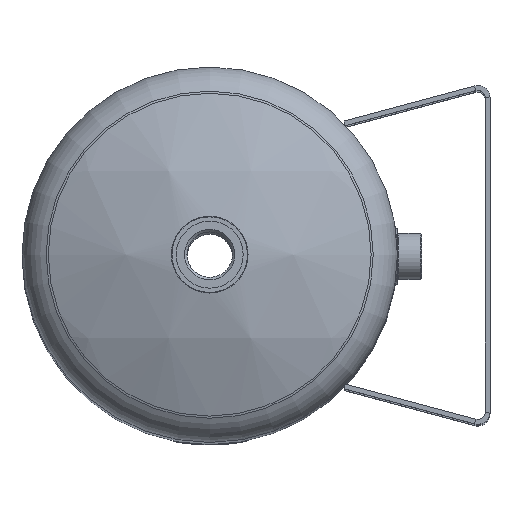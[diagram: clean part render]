
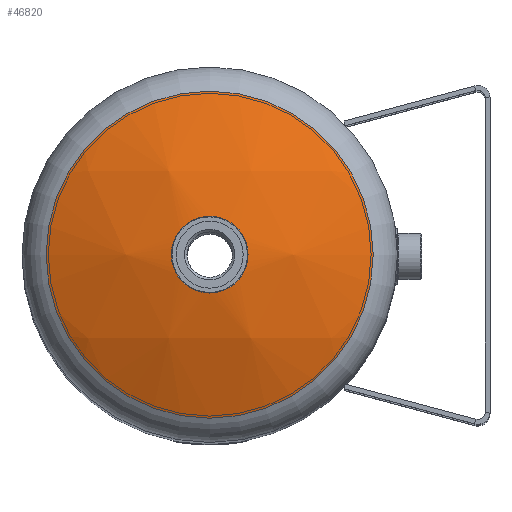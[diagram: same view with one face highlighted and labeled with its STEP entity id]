
A CAD part, top view. The second image highlights one B-rep face of the part: STEP entity #46820.
In plain terms, the highlighted spherical face has radius 156 mm.
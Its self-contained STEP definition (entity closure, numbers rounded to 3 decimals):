
#1633=SPHERICAL_SURFACE('',#49740,156.);
#1865=FACE_BOUND('',#6669,.T.);
#3035=CIRCLE('',#49730,15.75);
#3040=CIRCLE('',#49738,67.082);
#3914=FACE_OUTER_BOUND('',#6668,.T.);
#6668=EDGE_LOOP('',(#31824));
#6669=EDGE_LOOP('',(#31825));
#19518=VERTEX_POINT('',#59451);
#19523=VERTEX_POINT('',#59466);
#24429=EDGE_CURVE('',#19518,#19518,#3035,.T.);
#24435=EDGE_CURVE('',#19523,#19523,#3040,.T.);
#31824=ORIENTED_EDGE('',*,*,#24435,.T.);
#31825=ORIENTED_EDGE('',*,*,#24429,.T.);
#46820=ADVANCED_FACE('',(#3914,#1865),#1633,.T.);
#49730=AXIS2_PLACEMENT_3D('',#59453,#51848,#51849);
#49738=AXIS2_PLACEMENT_3D('',#59467,#51865,#51866);
#49740=AXIS2_PLACEMENT_3D('',#59469,#51869,#51870);
#51848=DIRECTION('center_axis',(0.,-1.,0.));
#51849=DIRECTION('ref_axis',(1.,0.,0.));
#51865=DIRECTION('center_axis',(0.,1.,0.));
#51866=DIRECTION('ref_axis',(1.,0.,0.));
#51869=DIRECTION('center_axis',(0.,0.,1.));
#51870=DIRECTION('ref_axis',(1.,0.,0.));
#59451=CARTESIAN_POINT('',(-15.75,155.203,0.));
#59453=CARTESIAN_POINT('Origin',(0.,155.203,0.));
#59466=CARTESIAN_POINT('',(0.,140.84,-67.082));
#59467=CARTESIAN_POINT('Origin',(0.,140.84,0.));
#59469=CARTESIAN_POINT('Origin',(0.,0.,0.));
